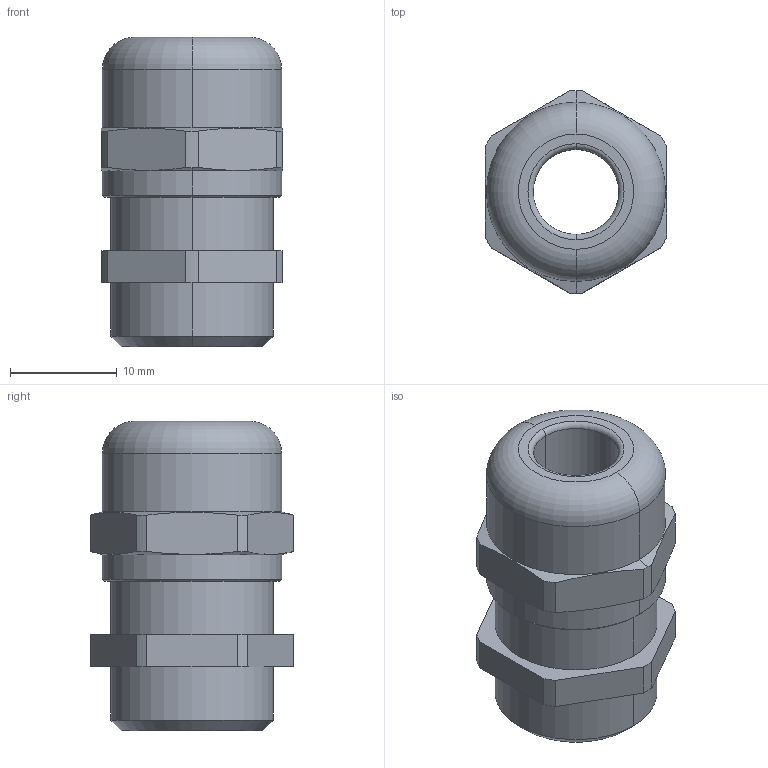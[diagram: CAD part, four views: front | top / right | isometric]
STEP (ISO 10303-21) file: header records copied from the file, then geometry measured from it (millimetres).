
FILE_DESCRIPTION (( 'STEP AP203' ), '1' );
FILE_NAME ('50.009-EMV.STEP', '2006-10-04T08:38:30', ( ' ' ), ( '' ), 'SwSTEP 2.0', 'SolidWorks 2005278', '' );
FILE_SCHEMA (( 'CONFIG_CONTROL_DESIGN' ));
Length unit declared in the file: millimetre
Products named in the file (1): 50.009-EMV
Bounding box: 17 x 19 x 29 mm (x, y, z)
Volume: 4596 mm3; surface area: 2649.1 mm2
Topology: 1 solids, 1 shells, 90 faces, 232 edges, 150 vertices
Faces by surface type: plane 54, cylinder 24, cone 8, torus 4
Entity records: 2843 total; most frequent: CARTESIAN_POINT 533, ORIENTED_EDGE 464, DIRECTION 464, EDGE_CURVE 232, LINE 158, VECTOR 158, AXIS2_PLACEMENT_3D 153, VERTEX_POINT 150
